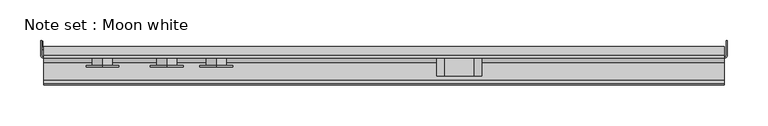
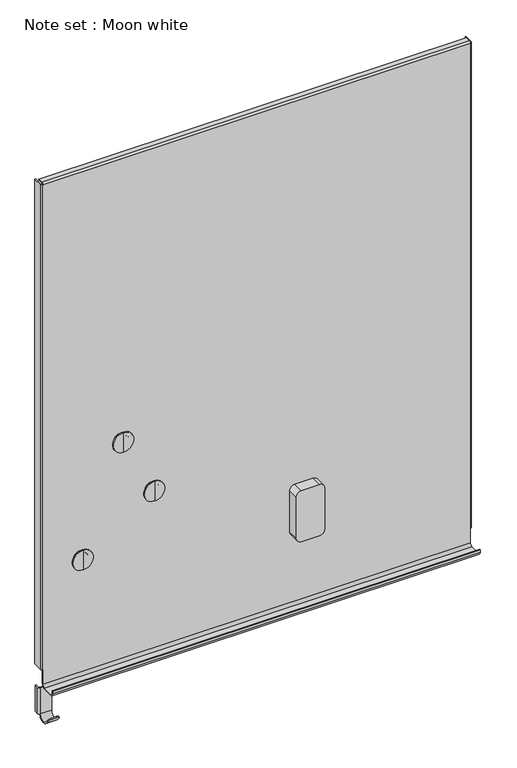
"""IFC4 building model written with IfcOpenShell, lengths in millimetres: proxy geometry, Note set : Moon white."""

from ifc_helpers import new_model, si_unit, point, frame, frame_2d, origin, place, context, project, spatial, polyline, circle_curve, trimmed, segment, composite_curve, outline, extrude, source, transform, mapped, element, save
from ifc_brep_helpers import plane_surface, cylinder_surface, revolved_surface, advanced_brep


def note_set_moon_white_98218ece(model_context):
    return source(origin(), model_context, "Body", "SolidModel", [
        advanced_brep(
        [(-393.0, -26.1861208, 897.4866239), (-393.0, -5.0000014, 905.2), (-393.0, -5.0000014, 959.2), (-393.0, -7.0000014, 959.2), (-393.0, -7.0000014, 905.2), (-393.0, -24.6696287, 898.7721239), (-393.0, -29.8228132, 904.9176183), (-393.0, -31.3553314, 903.632555), (-415.0, -24.6696287, 898.7721239), (-415.0, -7.0000014, 905.2), (-415.0, -5.0000014, 905.2), (-415.0, -26.1861208, 897.4866239), (-415.0, -31.3553314, 903.632555), (-415.0, -29.8228132, 904.9176183), (-419.0, -3.0000014, 959.2), (-415.0, -7.0000014, 959.2), (-415.0, -5.0000014, 959.2), (-417.0, -3.0000014, 959.2), (-417.0, 4.0, 959.2), (-419.0, 4.0, 959.2), (-419.0, -3.0000014, 905.2), (-419.0, 4.0, 905.2), (-417.0, 4.0, 905.2), (-417.0, -3.0000014, 905.2)],
        [
            (0, 1, circle_curve(frame((-393.0, -16.997192, 905.2), z_axis=(1.0, 0.0, 0.0), x_axis=(0.0, 1.0, 0.0)), 11.9971906)),
            (1, 2),
            (2, 3),
            (3, 4),
            (4, 5, circle_curve(frame((-393.0, -17.0039849, 905.2), z_axis=(-1.0, 0.0, 0.0), x_axis=(0.0, 1.0, 0.0)), 10.0039835)),
            (5, 6),
            (6, 7),
            (7, 0),
            (8, 9, circle_curve(frame((-415.0, -17.0039849, 905.2), z_axis=(1.0, 0.0, 0.0), x_axis=(0.0, 1.0, 0.0)), 10.0039835)),
            (9, 10),
            (10, 11, circle_curve(frame((-415.0, -16.997192, 905.2), z_axis=(-1.0, 0.0, 0.0), x_axis=(0.0, 1.0, 0.0)), 11.9971906)),
            (11, 12),
            (12, 13),
            (13, 8),
            (5, 8),
            (13, 6, circle_curve(frame((-404.0, -29.8228132, 904.9176183), z_axis=(0.0, 0.7662591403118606, 0.6425316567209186), x_axis=(0.0, -0.6425316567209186, 0.7662591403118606)), 11.0)),
            (12, 7, circle_curve(frame((-404.0, -31.3553314, 903.632555), z_axis=(0.0, 0.7662591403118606, 0.6425316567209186), x_axis=(0.0, -0.6425316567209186, 0.7662591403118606)), 11.0)),
            (11, 0),
            (10, 1),
            (4, 9),
            (14, 15, circle_curve(frame((-415.0, -3.0000014, 959.2), z_axis=(0.0, 0.0, 1.0), x_axis=(1.0, 0.0, 0.0)), 4.0)),
            (15, 3),
            (2, 16),
            (16, 17, circle_curve(frame((-415.0, -3.0000014, 959.2), z_axis=(0.0, 0.0, -1.0), x_axis=(1.0, 0.0, 0.0)), 2.0)),
            (17, 18),
            (18, 19),
            (19, 14),
            (20, 21),
            (21, 22),
            (22, 23),
            (23, 10, circle_curve(frame((-415.0, -3.0000014, 905.2), z_axis=(0.0, 0.0, 1.0), x_axis=(1.0, 0.0, 0.0)), 2.0)),
            (9, 20, circle_curve(frame((-415.0, -3.0000014, 905.2), z_axis=(0.0, 0.0, -1.0), x_axis=(1.0, 0.0, 0.0)), 4.0)),
            (14, 20),
            (9, 15),
            (10, 16),
            (23, 17),
            (22, 18),
            (21, 19),
        ],
        [
            plane_surface(frame((-393.0, -36.8971266, 913.354179), z_axis=(1.0, 0.0, 0.0), x_axis=(0.0, -0.7662591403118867, -0.6425316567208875))),
            plane_surface(frame((-415.0, -36.8971266, 913.354179), z_axis=(-1.0, 0.0, 0.0), x_axis=(0.0, 0.7662591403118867, 0.6425316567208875))),
            plane_surface(frame((-393.0, -24.6696287, 898.7721239), z_axis=(0.0, 0.7662591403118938, 0.6425316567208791), x_axis=(-1.0, 0.0, 0.0))),
            cylinder_surface(frame((-404.0, -29.8136183, 904.9253285), z_axis=(0.0, 0.7662591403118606, 0.6425316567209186), x_axis=(0.0, -0.6425316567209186, 0.7662591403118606)), 11.0),
            plane_surface(frame((-393.0, -38.4296448, 912.0691157), z_axis=(0.0, -0.7662591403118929, -0.6425316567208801), x_axis=(-1.0, 0.0, 0.0))),
            cylinder_surface(frame((-415.0, -16.997192, 905.2), z_axis=(1.0, 0.0, 0.0), x_axis=(0.0, 1.0, 0.0)), 11.9971906),
            revolved_surface(polyline([(-415.0, -7.000001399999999, 905.2), (-393.0, -7.000001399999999, 905.2)]), (-415.0, -17.0039849, 905.2), (-1.0, 0.0, 0.0)),
            plane_surface(frame((-411.0, -3.0000014, 959.2), z_axis=(0.0, 0.0, 1.0), x_axis=(0.0, 1.0, 0.0))),
            plane_surface(frame((-411.0, -3.0000014, 905.2), z_axis=(0.0, 0.0, -1.0), x_axis=(0.0, -1.0, 0.0))),
            cylinder_surface(frame((-415.0, -3.0000014, 905.2), z_axis=(0.0, 0.0, 1.0), x_axis=(1.0, 0.0, 0.0)), 4.0),
            plane_surface(frame((-415.0, -7.0000014, 959.2), z_axis=(0.0, -1.0, 0.0), x_axis=(0.0, 0.0, -1.0))),
            plane_surface(frame((-393.0, -5.0000014, 959.2), z_axis=(0.0, 1.0, 0.0), x_axis=(0.0, 0.0, -1.0))),
            revolved_surface(polyline([(-413.0, -3.0000014, 905.2), (-413.0, -3.0000014, 959.2)]), (-415.0, -3.0000014, 905.2), (0.0, 0.0, -1.0)),
            plane_surface(frame((-417.0, -3.0000014, 959.2), z_axis=(1.0, 0.0, 0.0), x_axis=(0.0, 0.0, -1.0))),
            plane_surface(frame((-417.0, 4.0, 959.2), z_axis=(0.0, 1.0, 0.0), x_axis=(0.0, 0.0, -1.0))),
            plane_surface(frame((-419.0, 4.0, 959.2), z_axis=(-1.0, 0.0, 0.0), x_axis=(0.0, 0.0, -1.0))),
        ],
        [
            (0, [[1, 2, 3, 4, 5, 6, 7, 8]]),
            (1, [[9, 10, 11, 12, 13, 14]]),
            (2, [[15, -14, 16, -6]]),
            (3, [[-7, -16, -13, 17]]),
            (4, [[18, -8, -17, -12]]),
            (5, [[-1, -18, -11, 19]]),
            (6, [[-5, 20, -9, -15]]),
            (7, [[21, 22, -3, 23, 24, 25, 26, 27]]),
            (8, [[28, 29, 30, 31, -10, 32]]),
            (9, [[-21, 33, -32, 34]]),
            (10, [[-22, -34, -20, -4]]),
            (11, [[-23, -2, -19, 35]]),
            (12, [[-24, -35, -31, 36]]),
            (13, [[-25, -36, -30, 37]]),
            (14, [[-26, -37, -29, 38]]),
            (15, [[-27, -38, -28, -33]]),
        ],
    ),
        extrude(outline(composite_curve([segment(polyline([(1212.7, 109.5345576), (1212.7, 74.5342681)]), True, "CONTINUOUS"), segment(trimmed(circle_curve(frame_2d((1202.7, 74.5342681)), 10.0), [point((1212.7, 74.5342681))], [point((1202.7, 64.5342681))], False, "CARTESIAN"), True, "CONTINUOUS"), segment(polyline([(1202.7, 64.5342681), (1117.7, 64.5342681)]), True, "CONTINUOUS"), segment(trimmed(circle_curve(frame_2d((1117.7, 74.5342681)), 10.0), [point((1117.7, 64.5342681))], [point((1107.7, 74.5342681))], False, "CARTESIAN"), True, "CONTINUOUS"), segment(polyline([(1107.7, 74.5342681), (1107.7, 109.5345576)]), True, "CONTINUOUS"), segment(trimmed(circle_curve(frame_2d((1117.7, 109.5345576)), 10.0), [point((1107.7, 109.5345576))], [point((1117.7, 119.5345576))], False, "CARTESIAN"), True, "CONTINUOUS"), segment(polyline([(1117.7, 119.5345576), (1202.7, 119.5345576)]), True, "CONTINUOUS"), segment(trimmed(circle_curve(frame_2d((1202.7, 109.5345576)), 10.0), [point((1202.7, 119.5345576))], [point((1212.7, 109.5345576))], False, "CARTESIAN"), True, "CONTINUOUS")], self_intersect=False)), frame((0.0, -39.2, 0.0), z_axis=(0.0, 1.0, 0.0), x_axis=(0.0, 0.0, 1.0)), (0.0, 0.0, 1.0), 22.0),
        advanced_brep(
        [(-344.195361, -26.2005217, 1229.5600253), (-344.195361, -26.2005217, 1189.5600253), (-344.195361, -28.2005217, 1189.5600253), (-344.195361, -28.2005217, 1229.5600253), (-344.195361, -26.2005217, 1222.0600253), (-344.195361, -26.2005217, 1197.0600253), (-344.195361, -17.2, 1222.0600253), (-344.195361, -17.2, 1197.0600253), (-344.195361, -17.2, 1209.5600253), (-344.195361, -28.2005217, 1209.5600253)],
        [
            (0, 1, circle_curve(frame((-344.195361, -26.2005217, 1209.5600253), z_axis=(0.0, -1.0, 0.0), x_axis=(0.0, 0.0, -1.0)), 20.0)),
            (1, 2),
            (2, 3, circle_curve(frame((-344.195361, -28.2005217, 1209.5600253), z_axis=(0.0, 1.0, 0.0), x_axis=(0.0, 0.0, -1.0)), 20.0)),
            (3, 0),
            (1, 0, circle_curve(frame((-344.195361, -26.2005217, 1209.5600253), z_axis=(0.0, -1.0, 0.0), x_axis=(0.0, 0.0, -1.0)), 20.0)),
            (3, 2, circle_curve(frame((-344.195361, -28.2005217, 1209.5600253), z_axis=(0.0, 1.0, 0.0), x_axis=(0.0, 0.0, -1.0)), 20.0)),
            (4, 5, circle_curve(frame((-344.195361, -26.2005217, 1209.5600253), z_axis=(0.0, -1.0, 0.0), x_axis=(0.0, 0.0, -1.0)), 12.5)),
            (5, 1),
            (0, 4),
            (5, 4, circle_curve(frame((-344.195361, -26.2005217, 1209.5600253), z_axis=(0.0, -1.0, 0.0), x_axis=(0.0, 0.0, -1.0)), 12.5)),
            (6, 7, circle_curve(frame((-344.195361, -17.2, 1209.5600253), z_axis=(0.0, -1.0, 0.0), x_axis=(0.0, 0.0, -1.0)), 12.5)),
            (7, 5),
            (4, 6),
            (7, 6, circle_curve(frame((-344.195361, -17.2, 1209.5600253), z_axis=(0.0, -1.0, 0.0), x_axis=(0.0, 0.0, -1.0)), 12.5)),
            (8, 7),
            (6, 8),
            (2, 9),
            (9, 3),
        ],
        [
            cylinder_surface(frame((-344.195361, -28.1967142, 1209.5600253), z_axis=(0.0, 1.0, 0.0), x_axis=(0.0, 0.0, -1.0)), 20.0),
            plane_surface(frame((-344.195361, -26.2005217, 1209.5600253), z_axis=(0.0, 1.0, 0.0), x_axis=(0.0, 0.0, -1.0))),
            cylinder_surface(frame((-344.195361, -28.1967142, 1209.5600253), z_axis=(0.0, 1.0, 0.0), x_axis=(0.0, 0.0, -1.0)), 12.5),
            plane_surface(frame((-344.195361, -17.2, 1209.5600253), z_axis=(0.0, 1.0, 0.0), x_axis=(0.0, 0.0, -1.0))),
            plane_surface(frame((-344.195361, -28.2005217, 1209.5600253), z_axis=(0.0, -1.0, 0.0), x_axis=(0.0, 0.0, -1.0))),
        ],
        [
            (0, [[1, 2, 3, 4]]),
            (0, [[5, -4, 6, -2]]),
            (1, [[7, 8, -1, 9]]),
            (1, [[10, -9, -5, -8]]),
            (2, [[11, 12, -7, 13]]),
            (2, [[14, -13, -10, -12]]),
            (3, [[15, -11, 16]]),
            (3, [[-16, -14, -15]]),
            (4, [[-3, 17, 18]]),
            (4, [[-6, -18, -17]]),
        ],
    ),
        advanced_brep(
        [(-205.0, -26.2005217, 1322.6859928), (-205.0, -26.2005217, 1282.6859928), (-205.0, -28.2005217, 1282.6859928), (-205.0, -28.2005217, 1322.6859928), (-205.0, -26.2005217, 1315.1859928), (-205.0, -26.2005217, 1290.1859928), (-205.0, -17.2, 1315.1859928), (-205.0, -17.2, 1290.1859928), (-205.0, -17.2, 1302.6859928), (-205.0, -28.2005217, 1302.6859928)],
        [
            (0, 1, circle_curve(frame((-205.0, -26.2005217, 1302.6859928), z_axis=(0.0, -1.0, 0.0), x_axis=(0.0, 0.0, -1.0)), 20.0)),
            (1, 2),
            (2, 3, circle_curve(frame((-205.0, -28.2005217, 1302.6859928), z_axis=(0.0, 1.0, 0.0), x_axis=(0.0, 0.0, -1.0)), 20.0)),
            (3, 0),
            (1, 0, circle_curve(frame((-205.0, -26.2005217, 1302.6859928), z_axis=(0.0, -1.0, 0.0), x_axis=(0.0, 0.0, -1.0)), 20.0)),
            (3, 2, circle_curve(frame((-205.0, -28.2005217, 1302.6859928), z_axis=(0.0, 1.0, 0.0), x_axis=(0.0, 0.0, -1.0)), 20.0)),
            (4, 5, circle_curve(frame((-205.0, -26.2005217, 1302.6859928), z_axis=(0.0, -1.0, 0.0), x_axis=(0.0, 0.0, -1.0)), 12.5)),
            (5, 1),
            (0, 4),
            (5, 4, circle_curve(frame((-205.0, -26.2005217, 1302.6859928), z_axis=(0.0, -1.0, 0.0), x_axis=(0.0, 0.0, -1.0)), 12.5)),
            (6, 7, circle_curve(frame((-205.0, -17.2, 1302.6859928), z_axis=(0.0, -1.0, 0.0), x_axis=(0.0, 0.0, -1.0)), 12.5)),
            (7, 5),
            (4, 6),
            (7, 6, circle_curve(frame((-205.0, -17.2, 1302.6859928), z_axis=(0.0, -1.0, 0.0), x_axis=(0.0, 0.0, -1.0)), 12.5)),
            (8, 7),
            (6, 8),
            (2, 9),
            (9, 3),
        ],
        [
            cylinder_surface(frame((-205.0, -28.1967142, 1302.6859928), z_axis=(0.0, 1.0, 0.0), x_axis=(0.0, 0.0, -1.0)), 20.0),
            plane_surface(frame((-205.0, -26.2005217, 1302.6859928), z_axis=(0.0, 1.0, 0.0), x_axis=(0.0, 0.0, -1.0))),
            cylinder_surface(frame((-205.0, -28.1967142, 1302.6859928), z_axis=(0.0, 1.0, 0.0), x_axis=(0.0, 0.0, -1.0)), 12.5),
            plane_surface(frame((-205.0, -17.2, 1302.6859928), z_axis=(0.0, 1.0, 0.0), x_axis=(0.0, 0.0, -1.0))),
            plane_surface(frame((-205.0, -28.2005217, 1302.6859928), z_axis=(0.0, -1.0, 0.0), x_axis=(0.0, 0.0, -1.0))),
        ],
        [
            (0, [[1, 2, 3, 4]]),
            (0, [[5, -4, 6, -2]]),
            (1, [[7, 8, -1, 9]]),
            (1, [[10, -9, -5, -8]]),
            (2, [[11, 12, -7, 13]]),
            (2, [[14, -13, -10, -12]]),
            (3, [[15, -11, 16]]),
            (3, [[-16, -14, -15]]),
            (4, [[-3, 17, 18]]),
            (4, [[-6, -18, -17]]),
        ],
    ),
        advanced_brep(
        [(-265.4343287, -26.2005217, 1444.382057), (-265.4343287, -26.2005217, 1404.382057), (-265.4343287, -28.2005217, 1404.382057), (-265.4343287, -28.2005217, 1444.382057), (-265.4343287, -26.2005217, 1436.882057), (-265.4343287, -26.2005217, 1411.882057), (-265.4343287, -17.2, 1436.882057), (-265.4343287, -17.2, 1411.882057), (-265.4343287, -17.2, 1424.382057), (-265.4343287, -28.2005217, 1424.382057)],
        [
            (0, 1, circle_curve(frame((-265.4343287, -26.2005217, 1424.382057), z_axis=(0.0, -1.0, 0.0), x_axis=(0.0, 0.0, -1.0)), 20.0)),
            (1, 2),
            (2, 3, circle_curve(frame((-265.4343287, -28.2005217, 1424.382057), z_axis=(0.0, 1.0, 0.0), x_axis=(0.0, 0.0, -1.0)), 20.0)),
            (3, 0),
            (1, 0, circle_curve(frame((-265.4343287, -26.2005217, 1424.382057), z_axis=(0.0, -1.0, 0.0), x_axis=(0.0, 0.0, -1.0)), 20.0)),
            (3, 2, circle_curve(frame((-265.4343287, -28.2005217, 1424.382057), z_axis=(0.0, 1.0, 0.0), x_axis=(0.0, 0.0, -1.0)), 20.0)),
            (4, 5, circle_curve(frame((-265.4343287, -26.2005217, 1424.382057), z_axis=(0.0, -1.0, 0.0), x_axis=(0.0, 0.0, -1.0)), 12.5)),
            (5, 1),
            (0, 4),
            (5, 4, circle_curve(frame((-265.4343287, -26.2005217, 1424.382057), z_axis=(0.0, -1.0, 0.0), x_axis=(0.0, 0.0, -1.0)), 12.5)),
            (6, 7, circle_curve(frame((-265.4343287, -17.2, 1424.382057), z_axis=(0.0, -1.0, 0.0), x_axis=(0.0, 0.0, -1.0)), 12.5)),
            (7, 5),
            (4, 6),
            (7, 6, circle_curve(frame((-265.4343287, -17.2, 1424.382057), z_axis=(0.0, -1.0, 0.0), x_axis=(0.0, 0.0, -1.0)), 12.5)),
            (8, 7),
            (6, 8),
            (2, 9),
            (9, 3),
        ],
        [
            cylinder_surface(frame((-265.4343287, -28.1967142, 1424.382057), z_axis=(0.0, 1.0, 0.0), x_axis=(0.0, 0.0, -1.0)), 20.0),
            plane_surface(frame((-265.4343287, -26.2005217, 1424.382057), z_axis=(0.0, 1.0, 0.0), x_axis=(0.0, 0.0, -1.0))),
            cylinder_surface(frame((-265.4343287, -28.1967142, 1424.382057), z_axis=(0.0, 1.0, 0.0), x_axis=(0.0, 0.0, -1.0)), 12.5),
            plane_surface(frame((-265.4343287, -17.2, 1424.382057), z_axis=(0.0, 1.0, 0.0), x_axis=(0.0, 0.0, -1.0))),
            plane_surface(frame((-265.4343287, -28.2005217, 1424.382057), z_axis=(0.0, -1.0, 0.0), x_axis=(0.0, 0.0, -1.0))),
        ],
        [
            (0, [[1, 2, 3, 4]]),
            (0, [[5, -4, 6, -2]]),
            (1, [[7, 8, -1, 9]]),
            (1, [[10, -9, -5, -8]]),
            (2, [[11, 12, -7, 13]]),
            (2, [[14, -13, -10, -12]]),
            (3, [[15, -11, 16]]),
            (3, [[-16, -14, -15]]),
            (4, [[-3, 17, 18]]),
            (4, [[-6, -18, -17]]),
        ],
    ),
        advanced_brep(
        [(416.0, -14.0, 2003.5), (416.0, -17.2, 2000.3), (416.0, -16.0, 2000.3), (416.0, -14.0, 2002.3), (416.0, -2.9999605, 2002.3), (416.0, -2.9999605, 2003.5), (416.0, -17.2, 972.7), (416.0, -22.2, 967.7), (416.0, -43.8, 967.7), (416.0, -48.8, 972.7), (416.0, -48.8, 978.5), (416.0, -50.0, 978.5), (416.0, -50.0, 972.7), (416.0, -43.8, 966.5), (416.0, -22.2, 966.5), (416.0, -16.0, 972.7), (416.0, -16.0, 1002.7), (416.0, -17.2, 1002.7), (-416.0, -14.0, 2003.5), (-416.0, -2.9999605, 2003.5), (-416.0, -2.9999605, 2002.3), (-416.0, -14.0, 2002.3), (-416.0, -16.0, 2000.3), (-416.0, -17.2, 2000.3), (-416.0, -16.0, 972.7), (-416.0, -22.2, 966.5), (-416.0, -43.8, 966.5), (-416.0, -50.0, 972.7), (-416.0, -50.0, 978.5), (-416.0, -48.8, 978.5), (-416.0, -48.8, 972.7), (-416.0, -43.8, 967.7), (-416.0, -22.2, 967.7), (-416.0, -17.2, 972.7), (-416.0, -17.2, 1002.7), (-416.0, -16.0, 1002.7), (418.0, 4.0, 2000.3), (418.0, -14.0, 2000.3), (419.2, -14.0, 2000.3), (419.2, 4.0, 2000.3), (-418.0, 4.0, 2000.3), (-419.2, 4.0, 2000.3), (-419.2, -14.0, 2000.3), (-418.0, -14.0, 2000.3), (418.0, 4.0, 1002.7), (419.2, 4.0, 1002.7), (419.2, -14.0, 1002.7), (418.0, -14.0, 1002.7), (-418.0, 4.0, 1002.7), (-418.0, -14.0, 1002.7), (-419.2, -14.0, 1002.7), (-419.2, 4.0, 1002.7)],
        [
            (0, 1, circle_curve(frame((416.0, -14.0, 2000.3), z_axis=(1.0, 0.0, 0.0), x_axis=(0.0, 1.0, 0.0)), 3.2)),
            (1, 2),
            (2, 3, circle_curve(frame((416.0, -14.0, 2000.3), z_axis=(-1.0, 0.0, 0.0), x_axis=(0.0, 1.0, 0.0)), 2.0)),
            (3, 4),
            (4, 5),
            (5, 0),
            (6, 7, circle_curve(frame((416.0, -22.2, 972.7), z_axis=(-1.0, 0.0, 0.0), x_axis=(0.0, 1.0, 0.0)), 5.0)),
            (7, 8),
            (8, 9, circle_curve(frame((416.0, -43.8, 972.7), z_axis=(-1.0, 0.0, 0.0), x_axis=(0.0, 1.0, 0.0)), 5.0)),
            (9, 10),
            (10, 11),
            (11, 12),
            (12, 13, circle_curve(frame((416.0, -43.8, 972.7), z_axis=(1.0, 0.0, 0.0), x_axis=(0.0, 1.0, 0.0)), 6.2)),
            (13, 14),
            (14, 15, circle_curve(frame((416.0, -22.2, 972.7), z_axis=(1.0, 0.0, 0.0), x_axis=(0.0, 1.0, 0.0)), 6.2)),
            (15, 16),
            (16, 17),
            (17, 6),
            (18, 19),
            (19, 20),
            (20, 21),
            (21, 22, circle_curve(frame((-416.0, -14.0, 2000.3), z_axis=(1.0, 0.0, 0.0), x_axis=(0.0, 1.0, 0.0)), 2.0)),
            (22, 23),
            (23, 18, circle_curve(frame((-416.0, -14.0, 2000.3), z_axis=(-1.0, 0.0, 0.0), x_axis=(0.0, 1.0, 0.0)), 3.2)),
            (24, 25, circle_curve(frame((-416.0, -22.2, 972.7), z_axis=(-1.0, 0.0, 0.0), x_axis=(0.0, 1.0, 0.0)), 6.2)),
            (25, 26),
            (26, 27, circle_curve(frame((-416.0, -43.8, 972.7), z_axis=(-1.0, 0.0, 0.0), x_axis=(0.0, 1.0, 0.0)), 6.2)),
            (27, 28),
            (28, 29),
            (29, 30),
            (30, 31, circle_curve(frame((-416.0, -43.8, 972.7), z_axis=(1.0, 0.0, 0.0), x_axis=(0.0, 1.0, 0.0)), 5.0)),
            (31, 32),
            (32, 33, circle_curve(frame((-416.0, -22.2, 972.7), z_axis=(1.0, 0.0, 0.0), x_axis=(0.0, 1.0, 0.0)), 5.0)),
            (33, 34),
            (34, 35),
            (35, 24),
            (0, 18),
            (23, 1),
            (23, 34),
            (33, 6),
            (17, 1),
            (32, 7),
            (31, 8),
            (30, 9),
            (29, 10),
            (28, 11),
            (27, 12),
            (26, 13),
            (25, 14),
            (24, 15),
            (35, 22),
            (22, 2),
            (2, 16),
            (21, 3),
            (20, 4),
            (19, 5),
            (36, 37),
            (37, 2, circle_curve(frame((416.0, -14.0, 2000.3), z_axis=(0.0, 0.0, -1.0), x_axis=(1.0, 0.0, 0.0)), 2.0)),
            (1, 38, circle_curve(frame((416.0, -14.0, 2000.3), z_axis=(0.0, 0.0, 1.0), x_axis=(1.0, 0.0, 0.0)), 3.2)),
            (38, 39),
            (39, 36),
            (40, 41),
            (41, 42),
            (42, 23, circle_curve(frame((-416.0, -14.0, 2000.3), z_axis=(0.0, 0.0, 1.0), x_axis=(-1.0, 0.0, 0.0)), 3.2)),
            (22, 43, circle_curve(frame((-416.0, -14.0, 2000.3), z_axis=(0.0, 0.0, -1.0), x_axis=(-1.0, 0.0, 0.0)), 2.0)),
            (43, 40),
            (44, 45),
            (45, 46),
            (46, 17, circle_curve(frame((416.0, -14.0, 1002.7), z_axis=(0.0, 0.0, -1.0), x_axis=(1.0, 0.0, 0.0)), 3.2)),
            (16, 47, circle_curve(frame((416.0, -14.0, 1002.7), z_axis=(0.0, 0.0, 1.0), x_axis=(1.0, 0.0, 0.0)), 2.0)),
            (47, 44),
            (48, 49),
            (49, 35, circle_curve(frame((-416.0, -14.0, 1002.7), z_axis=(0.0, 0.0, 1.0), x_axis=(-1.0, 0.0, 0.0)), 2.0)),
            (34, 50, circle_curve(frame((-416.0, -14.0, 1002.7), z_axis=(0.0, 0.0, -1.0), x_axis=(-1.0, 0.0, 0.0)), 3.2)),
            (50, 51),
            (51, 48),
            (36, 44),
            (47, 37),
            (46, 38),
            (45, 39),
            (40, 48),
            (51, 41),
            (50, 42),
            (49, 43),
        ],
        [
            plane_surface(frame((416.0, -10.8, 2000.3), z_axis=(1.0, 0.0, 0.0), x_axis=(0.0, 0.0, 1.0))),
            plane_surface(frame((-416.0, -10.8, 2000.3), z_axis=(-1.0, 0.0, 0.0), x_axis=(0.0, 0.0, -1.0))),
            cylinder_surface(frame((-416.0, -14.0, 2000.3), z_axis=(1.0, 0.0, 0.0), x_axis=(0.0, 1.0, 0.0)), 3.2),
            plane_surface(frame((416.0, -17.2, 2000.3), z_axis=(0.0, -1.0, 0.0), x_axis=(-1.0, 0.0, 0.0))),
            revolved_surface(polyline([(-416.0, -17.2, 972.7), (416.0, -17.2, 972.7)]), (-416.0, -22.2, 972.7), (-1.0, 0.0, 0.0)),
            plane_surface(frame((416.0, -22.2, 967.7), z_axis=(0.0, 0.0, 1.0), x_axis=(-1.0, 0.0, 0.0))),
            revolved_surface(polyline([(-416.0, -38.8, 972.7), (416.0, -38.8, 972.7)]), (-416.0, -43.8, 972.7), (-1.0, 0.0, 0.0)),
            plane_surface(frame((416.0, -48.8, 972.7), z_axis=(0.0, 1.0, 0.0), x_axis=(-1.0, 0.0, 0.0))),
            plane_surface(frame((416.0, -48.8, 978.5), z_axis=(0.0, 0.0, 1.0), x_axis=(-1.0, 0.0, 0.0))),
            plane_surface(frame((416.0, -50.0, 978.5), z_axis=(0.0, -1.0, 0.0), x_axis=(-1.0, 0.0, 0.0))),
            cylinder_surface(frame((-416.0, -43.8, 972.7), z_axis=(1.0, 0.0, 0.0), x_axis=(0.0, 1.0, 0.0)), 6.2),
            plane_surface(frame((416.0, -43.8, 966.5), z_axis=(0.0, 0.0, -1.0), x_axis=(-1.0, 0.0, 0.0))),
            cylinder_surface(frame((-416.0, -22.2, 972.7), z_axis=(1.0, 0.0, 0.0), x_axis=(0.0, 1.0, 0.0)), 6.2),
            plane_surface(frame((416.0, -16.0, 972.7), z_axis=(0.0, 1.0, 0.0), x_axis=(-1.0, 0.0, 0.0))),
            revolved_surface(polyline([(-416.0, -12.0, 2000.3), (416.0, -12.0, 2000.3)]), (-416.0, -14.0, 2000.3), (-1.0, 0.0, 0.0)),
            plane_surface(frame((416.0, -14.0, 2002.3), z_axis=(0.0, 0.0, -1.0), x_axis=(-1.0, 0.0, 0.0))),
            plane_surface(frame((416.0, -2.9999605, 2002.3), z_axis=(0.0, 1.0, 0.0), x_axis=(-1.0, 0.0, 0.0))),
            plane_surface(frame((416.0, -2.9999605, 2003.5), z_axis=(0.0, 0.0, 1.0), x_axis=(-1.0, 0.0, 0.0))),
            plane_surface(frame((418.0, -16.0, 2000.3), z_axis=(0.0, 0.0, 1.0), x_axis=(0.0, -1.0, 0.0))),
            plane_surface(frame((418.0, -16.0, 1002.7), z_axis=(0.0, 0.0, -1.0), x_axis=(0.0, 1.0, 0.0))),
            plane_surface(frame((418.0, 4.0, 2000.3), z_axis=(-1.0, 0.0, 0.0), x_axis=(0.0, 0.0, -1.0))),
            revolved_surface(polyline([(418.0, -14.0, 1002.7), (418.0, -14.0, 2000.3)]), (416.0, -14.0, 1002.7), (0.0, 0.0, -1.0)),
            cylinder_surface(frame((416.0, -14.0, 1002.7), z_axis=(0.0, 0.0, 1.0), x_axis=(1.0, 0.0, 0.0)), 3.2),
            plane_surface(frame((419.2, -14.0, 2000.3), z_axis=(1.0, 0.0, 0.0), x_axis=(0.0, 0.0, -1.0))),
            plane_surface(frame((419.2, 4.0, 2000.3), z_axis=(0.0, 1.0, 0.0), x_axis=(0.0, 0.0, -1.0))),
            plane_surface(frame((-418.0, 4.0, 2000.3), z_axis=(0.0, 1.0, 0.0), x_axis=(0.0, 0.0, -1.0))),
            plane_surface(frame((-419.2, 4.0, 2000.3), z_axis=(-1.0, 0.0, 0.0), x_axis=(0.0, 0.0, -1.0))),
            cylinder_surface(frame((-416.0, -14.0, 0.0), z_axis=(0.0, 0.0, 1.0), x_axis=(-1.0, 0.0, 0.0)), 3.2),
            revolved_surface(polyline([(-418.0, -14.0, 1002.7), (-418.0, -14.0, 2000.3)]), (-416.0, -14.0, 0.0), (0.0, 0.0, -1.0)),
            plane_surface(frame((-418.0, -14.0, 2000.3), z_axis=(1.0, 0.0, 0.0), x_axis=(0.0, 0.0, -1.0))),
        ],
        [
            (0, [[1, 2, 3, 4, 5, 6]]),
            (0, [[7, 8, 9, 10, 11, 12, 13, 14, 15, 16, 17, 18]]),
            (1, [[19, 20, 21, 22, 23, 24]]),
            (1, [[25, 26, 27, 28, 29, 30, 31, 32, 33, 34, 35, 36]]),
            (2, [[-1, 37, -24, 38]]),
            (3, [[-38, 39, -34, 40, -18, 41]]),
            (4, [[-7, -40, -33, 42]]),
            (5, [[-8, -42, -32, 43]]),
            (6, [[-9, -43, -31, 44]]),
            (7, [[-10, -44, -30, 45]]),
            (8, [[-11, -45, -29, 46]]),
            (9, [[-12, -46, -28, 47]]),
            (10, [[-13, -47, -27, 48]]),
            (11, [[-14, -48, -26, 49]]),
            (12, [[-15, -49, -25, 50]]),
            (13, [[-50, -36, 51, 52, 53, -16]]),
            (14, [[-3, -52, -22, 54]]),
            (15, [[-4, -54, -21, 55]]),
            (16, [[-5, -55, -20, 56]]),
            (17, [[-6, -56, -19, -37]]),
            (18, [[57, 58, -2, 59, 60, 61]]),
            (18, [[62, 63, 64, -23, 65, 66]]),
            (19, [[67, 68, 69, -17, 70, 71]]),
            (19, [[72, 73, -35, 74, 75, 76]]),
            (20, [[-57, 77, -71, 78]]),
            (21, [[-58, -78, -70, -53]]),
            (22, [[-59, -41, -69, 79]]),
            (23, [[-60, -79, -68, 80]]),
            (24, [[-61, -80, -67, -77]]),
            (25, [[-62, 81, -76, 82]]),
            (26, [[-63, -82, -75, 83]]),
            (27, [[-64, -83, -74, -39]]),
            (28, [[-65, -51, -73, 84]]),
            (29, [[-66, -84, -72, -81]]),
        ],
    ),
    ])


if __name__ == "__main__":
    model = new_model("IFC4")
    model_context = context("Model", 3, world=origin())
    ifc_project = project(units=[si_unit("LENGTHUNIT", "METRE", prefix="MILLI")], contexts=[model_context])
    site = spatial("IfcSite", under=ifc_project)
    building = spatial("IfcBuilding", under=site)
    placement = place(None, origin())
    note_set_moon_white_shape = note_set_moon_white_98218ece(model_context)
    element("IfcBuildingElementProxy", 1, Name="Note set : Moon white", ObjectType="Note set : Moon white", at=placement, inside=building, context=model_context, shape_type="MappedRepresentation", body=[
        mapped(note_set_moon_white_shape, transform((0.0, 0.0, 0.0), x_axis=(1.0, 0.0, 0.0), y_axis=(0.0, 1.0, 0.0), z_axis=(0.0, 0.0, 1.0))),
    ])
    save(model, "model.ifc")
